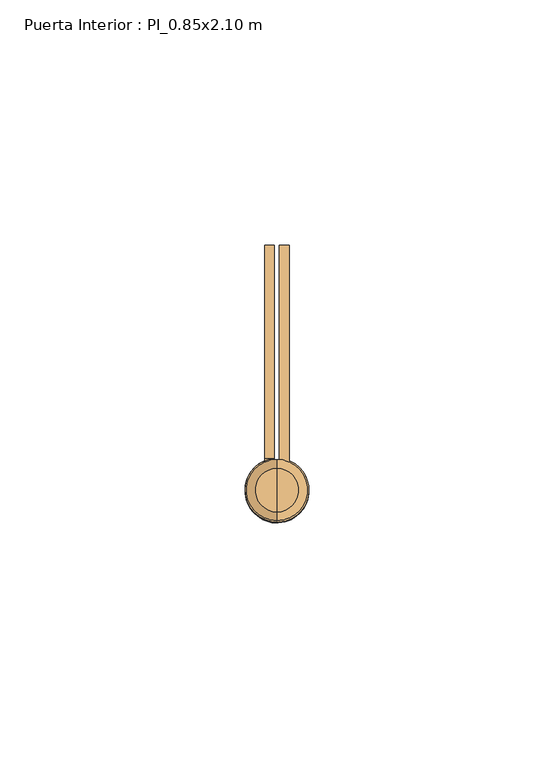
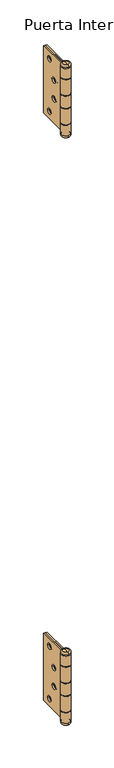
"""IFC4 building model written with IfcOpenShell, lengths in millimetres: door geometry, Puerta Interior : PI_0.85x2.10 m."""

from ifc_helpers import new_model, si_unit, point, frame, origin, place, context, project, spatial, polyline, circle_curve, ellipse_curve, trimmed, source, transform, mapped, element, save
from ifc_brep_helpers import plane_surface, cylinder_surface, revolved_surface, advanced_brep


def puerta_interior_pi_0_85x2_10_m_9cadf999(model_context):
    return source(origin(), model_context, "Body", "AdvancedBrep", [
        advanced_brep(
        [(-389.0, -7.5, 1950.0), (-389.0, -51.5, 1950.0), (-389.0, -51.5, 1934.5), (-389.0, -51.0, 1934.5), (-389.0, -51.0, 1909.0), (-389.0, -51.5, 1909.0), (-389.0, -51.5, 1891.0), (-389.0, -51.0, 1891.0), (-389.0, -51.0, 1865.5), (-389.0, -51.5, 1865.5), (-389.0, -51.5, 1850.0), (-389.0, -7.5, 1850.0), (-389.0, -17.5, 1861.0), (-389.0, -25.5, 1861.0), (-389.0, -28.5, 1886.0), (-389.0, -36.5, 1886.0), (-389.0, -17.5, 1939.0), (-389.0, -25.5, 1939.0), (-389.0, -28.5, 1914.0), (-389.0, -36.5, 1914.0), (-391.0, -7.5, 1850.0), (-391.0, -53.027864, 1850.0), (-391.0, -53.027864, 1865.5), (-391.0, -51.0, 1865.5), (-391.0, -51.0, 1891.0), (-391.0, -53.027864, 1891.0), (-391.0, -53.027864, 1909.0), (-391.0, -51.0, 1909.0), (-391.0, -51.0, 1934.5), (-391.0, -53.027864, 1934.5), (-391.0, -53.027864, 1950.0), (-391.0, -7.5, 1950.0), (-391.0, -25.5, 1861.0), (-391.0, -17.5, 1861.0), (-391.0, -36.5, 1886.0), (-391.0, -28.5, 1886.0), (-391.0, -25.5, 1939.0), (-391.0, -17.5, 1939.0), (-391.0, -36.5, 1914.0), (-391.0, -28.5, 1914.0), (-392.0, -51.0192593, 1850.0), (-392.0, -53.027864, 1850.0), (-392.0, -53.027864, 1950.0), (-392.0, -51.0192593, 1950.0), (-392.0, -51.0192593, 1934.5), (-392.0, -53.027864, 1934.5), (-392.0, -53.027864, 1909.0), (-392.0, -51.0192593, 1909.0), (-392.0, -51.0192593, 1891.0), (-392.0, -53.027864, 1891.0), (-392.0, -53.027864, 1865.5), (-392.0, -51.0192593, 1865.5)],
        [
            (0, 1),
            (1, 2),
            (2, 3),
            (3, 4),
            (4, 5),
            (5, 6),
            (6, 7),
            (7, 8),
            (8, 9),
            (9, 10),
            (10, 11),
            (11, 0),
            (12, 13, circle_curve(frame((-389.0, -21.5, 1861.0), z_axis=(-1.0, 0.0, 0.0), x_axis=(0.0, 1.0, 0.0)), 4.0)),
            (13, 12, circle_curve(frame((-389.0, -21.5, 1861.0), z_axis=(-1.0, 0.0, 0.0), x_axis=(0.0, 1.0, 0.0)), 4.0)),
            (14, 15, circle_curve(frame((-389.0, -32.5, 1886.0), z_axis=(-1.0, 0.0, 0.0), x_axis=(0.0, 1.0, 0.0)), 4.0)),
            (15, 14, circle_curve(frame((-389.0, -32.5, 1886.0), z_axis=(-1.0, 0.0, 0.0), x_axis=(0.0, 1.0, 0.0)), 4.0)),
            (16, 17, circle_curve(frame((-389.0, -21.5, 1939.0), z_axis=(-1.0, 0.0, 0.0), x_axis=(0.0, 1.0, 0.0)), 4.0)),
            (17, 16, circle_curve(frame((-389.0, -21.5, 1939.0), z_axis=(-1.0, 0.0, 0.0), x_axis=(0.0, 1.0, 0.0)), 4.0)),
            (18, 19, circle_curve(frame((-389.0, -32.5, 1914.0), z_axis=(-1.0, 0.0, 0.0), x_axis=(0.0, 1.0, 0.0)), 4.0)),
            (19, 18, circle_curve(frame((-389.0, -32.5, 1914.0), z_axis=(-1.0, 0.0, 0.0), x_axis=(0.0, 1.0, 0.0)), 4.0)),
            (20, 21),
            (21, 22),
            (22, 23),
            (23, 24),
            (24, 25),
            (25, 26),
            (26, 27),
            (27, 28),
            (28, 29),
            (29, 30),
            (30, 31),
            (31, 20),
            (32, 33, circle_curve(frame((-391.0, -21.5, 1861.0), z_axis=(1.0, 0.0, 0.0), x_axis=(0.0, 1.0, 0.0)), 4.0)),
            (33, 32, circle_curve(frame((-391.0, -21.5, 1861.0), z_axis=(1.0, 0.0, 0.0), x_axis=(0.0, 1.0, 0.0)), 4.0)),
            (34, 35, circle_curve(frame((-391.0, -32.5, 1886.0), z_axis=(1.0, 0.0, 0.0), x_axis=(0.0, 1.0, 0.0)), 4.0)),
            (35, 34, circle_curve(frame((-391.0, -32.5, 1886.0), z_axis=(1.0, 0.0, 0.0), x_axis=(0.0, 1.0, 0.0)), 4.0)),
            (36, 37, circle_curve(frame((-391.0, -21.5, 1939.0), z_axis=(1.0, 0.0, 0.0), x_axis=(0.0, 1.0, 0.0)), 4.0)),
            (37, 36, circle_curve(frame((-391.0, -21.5, 1939.0), z_axis=(1.0, 0.0, 0.0), x_axis=(0.0, 1.0, 0.0)), 4.0)),
            (38, 39, circle_curve(frame((-391.0, -32.5, 1914.0), z_axis=(1.0, 0.0, 0.0), x_axis=(0.0, 1.0, 0.0)), 4.0)),
            (39, 38, circle_curve(frame((-391.0, -32.5, 1914.0), z_axis=(1.0, 0.0, 0.0), x_axis=(0.0, 1.0, 0.0)), 4.0)),
            (10, 40, circle_curve(frame((-391.5, -57.5, 1850.0), z_axis=(0.0, 0.0, -1.0), x_axis=(0.0, -1.0, 0.0)), 6.5)),
            (40, 41),
            (41, 21, circle_curve(frame((-391.5, -57.5, 1850.0), z_axis=(0.0, 0.0, 1.0), x_axis=(0.0, -1.0, 0.0)), 4.5)),
            (20, 11),
            (31, 0),
            (30, 42, circle_curve(frame((-391.5, -57.5, 1950.0), z_axis=(0.0, 0.0, -1.0), x_axis=(0.0, -1.0, 0.0)), 4.5)),
            (42, 43),
            (43, 1, circle_curve(frame((-391.5, -57.5, 1950.0), z_axis=(0.0, 0.0, 1.0), x_axis=(0.0, -1.0, 0.0)), 6.5)),
            (27, 4),
            (3, 28),
            (23, 8),
            (7, 24),
            (2, 44, circle_curve(frame((-391.5, -57.5, 1934.5), z_axis=(0.0, 0.0, -1.0), x_axis=(0.0, -1.0, 0.0)), 6.5)),
            (44, 45),
            (45, 29, circle_curve(frame((-391.5, -57.5, 1934.5), z_axis=(0.0, 0.0, 1.0), x_axis=(0.0, -1.0, 0.0)), 4.5)),
            (43, 44),
            (42, 45),
            (26, 46, circle_curve(frame((-391.5, -57.5, 1909.0), z_axis=(0.0, 0.0, -1.0), x_axis=(0.0, -1.0, 0.0)), 4.5)),
            (46, 47),
            (47, 5, circle_curve(frame((-391.5, -57.5, 1909.0), z_axis=(0.0, 0.0, 1.0), x_axis=(0.0, -1.0, 0.0)), 6.5)),
            (6, 48, circle_curve(frame((-391.5, -57.5, 1891.0), z_axis=(0.0, 0.0, -1.0), x_axis=(0.0, -1.0, 0.0)), 6.5)),
            (48, 49),
            (49, 25, circle_curve(frame((-391.5, -57.5, 1891.0), z_axis=(0.0, 0.0, 1.0), x_axis=(0.0, -1.0, 0.0)), 4.5)),
            (47, 48),
            (46, 49),
            (22, 50, circle_curve(frame((-391.5, -57.5, 1865.5), z_axis=(0.0, 0.0, -1.0), x_axis=(0.0, -1.0, 0.0)), 4.5)),
            (50, 51),
            (51, 9, circle_curve(frame((-391.5, -57.5, 1865.5), z_axis=(0.0, 0.0, 1.0), x_axis=(0.0, -1.0, 0.0)), 6.5)),
            (51, 40),
            (50, 41),
            (33, 12),
            (13, 32),
            (35, 14),
            (15, 34),
            (37, 16),
            (17, 36),
            (39, 18),
            (19, 38),
        ],
        [
            plane_surface(frame((-389.0, -51.0, 1850.0), z_axis=(1.0, 0.0, 0.0), x_axis=(0.0, 0.0, 1.0))),
            plane_surface(frame((-391.0, -51.0, 1850.0), z_axis=(-1.0, 0.0, 0.0), x_axis=(0.0, 0.0, -1.0))),
            plane_surface(frame((-389.0, -7.5, 1850.0), z_axis=(0.0, 0.0, -1.0), x_axis=(-1.0, 0.0, 0.0))),
            plane_surface(frame((-389.0, -7.5, 1950.0), z_axis=(0.0, 1.0, 0.0), x_axis=(-1.0, 0.0, 0.0))),
            plane_surface(frame((-389.0, -51.0, 1950.0), z_axis=(0.0, 0.0, 1.0), x_axis=(-1.0, 0.0, 0.0))),
            plane_surface(frame((-389.0, -51.0, 1850.0), z_axis=(0.0, -1.0, 0.0), x_axis=(-1.0, 0.0, 0.0))),
            plane_surface(frame((-391.0, -51.0, 1934.5), z_axis=(0.0, 0.0, -1.0), x_axis=(0.0, -1.0, 0.0))),
            cylinder_surface(frame((-391.5, -57.5, 1934.5), z_axis=(0.0, 0.0, 1.0), x_axis=(0.0, -1.0, 0.0)), 6.5),
            plane_surface(frame((-392.0, -51.0192593, 1950.0), z_axis=(1.0, 0.0, 0.0), x_axis=(0.0, 0.0, -1.0))),
            revolved_surface(polyline([(-391.5, -62.0, 1934.5), (-391.5, -62.0, 1950.0)]), (-391.5, -57.5, 1934.5), (0.0, 0.0, -1.0)),
            plane_surface(frame((-391.0, -51.0, 1909.0), z_axis=(0.0, 0.0, 1.0), x_axis=(0.0, 1.0, 0.0))),
            plane_surface(frame((-391.0, -51.0, 1891.0), z_axis=(0.0, 0.0, -1.0), x_axis=(0.0, -1.0, 0.0))),
            cylinder_surface(frame((-391.5, -57.5, 1891.0), z_axis=(0.0, 0.0, 1.0), x_axis=(0.0, -1.0, 0.0)), 6.5),
            plane_surface(frame((-392.0, -51.0192593, 1909.0), z_axis=(1.0, 0.0, 0.0), x_axis=(0.0, 0.0, -1.0))),
            revolved_surface(polyline([(-391.5, -62.0, 1891.0), (-391.5, -62.0, 1909.0)]), (-391.5, -57.5, 1891.0), (0.0, 0.0, -1.0)),
            plane_surface(frame((-391.0, -51.0, 1865.5), z_axis=(0.0, 0.0, 1.0), x_axis=(0.0, 1.0, 0.0))),
            cylinder_surface(frame((-391.5, -57.5, 1850.0), z_axis=(0.0, 0.0, 1.0), x_axis=(0.0, -1.0, 0.0)), 6.5),
            plane_surface(frame((-392.0, -51.0192593, 1865.5), z_axis=(1.0, 0.0, 0.0), x_axis=(0.0, 0.0, -1.0))),
            revolved_surface(polyline([(-391.5, -62.0, 1850.0), (-391.5, -62.0, 1865.5)]), (-391.5, -57.5, 1850.0), (0.0, 0.0, -1.0)),
            revolved_surface(polyline([(-389.0, -17.5, 1861.0), (-391.0, -17.5, 1861.0)]), (-394.0, -21.5, 1861.0), (1.0, 0.0, 0.0)),
            revolved_surface(polyline([(-389.0, -28.5, 1886.0), (-391.0, -28.5, 1886.0)]), (-392.0, -32.5, 1886.0), (1.0, 0.0, 0.0)),
            revolved_surface(polyline([(-389.0, -17.5, 1939.0), (-391.0, -17.5, 1939.0)]), (-392.0, -21.5, 1939.0), (1.0, 0.0, 0.0)),
            revolved_surface(polyline([(-389.0, -28.5, 1914.0), (-391.0, -28.5, 1914.0)]), (-392.0, -32.5, 1914.0), (1.0, 0.0, 0.0)),
        ],
        [
            (0, [[1, 2, 3, 4, 5, 6, 7, 8, 9, 10, 11, 12], [13, 14], [15, 16], [17, 18], [19, 20]]),
            (1, [[21, 22, 23, 24, 25, 26, 27, 28, 29, 30, 31, 32], [33, 34], [35, 36], [37, 38], [39, 40]]),
            (2, [[-11, 41, 42, 43, -21, 44]]),
            (3, [[-44, -32, 45, -12]]),
            (4, [[-31, 46, 47, 48, -1, -45]]),
            (5, [[-28, 49, -4, 50]]),
            (5, [[-24, 51, -8, 52]]),
            (6, [[-29, -50, -3, 53, 54, 55]]),
            (7, [[56, -53, -2, -48]]),
            (8, [[57, -54, -56, -47]]),
            (9, [[-30, -55, -57, -46]]),
            (10, [[-5, -49, -27, 58, 59, 60]]),
            (11, [[-25, -52, -7, 61, 62, 63]]),
            (12, [[64, -61, -6, -60]]),
            (13, [[65, -62, -64, -59]]),
            (14, [[-26, -63, -65, -58]]),
            (15, [[-9, -51, -23, 66, 67, 68]]),
            (16, [[69, -41, -10, -68]]),
            (17, [[70, -42, -69, -67]]),
            (18, [[-22, -43, -70, -66]]),
            (19, [[-34, 71, -14, 72]]),
            (19, [[-13, -71, -33, -72]]),
            (20, [[-36, 73, -16, 74]]),
            (20, [[-15, -73, -35, -74]]),
            (21, [[-38, 75, -18, 76]]),
            (21, [[-17, -75, -37, -76]]),
            (22, [[-40, 77, -20, 78]]),
            (22, [[-19, -77, -39, -78]]),
        ],
    ),
        advanced_brep(
        [(-391.5, -53.0, 1954.0), (-391.5, -53.0, 1950.5), (-391.5, -61.9442719, 1950.5), (-391.5, -61.9442719, 1954.0), (-391.5, -57.472136, 1954.0), (-391.5, -53.0, 1846.0), (-391.5, -57.472136, 1846.0), (-391.5, -61.9442719, 1846.0), (-391.5, -53.0, 1849.5), (-391.5, -61.9442719, 1849.5)],
        [
            (0, 1, circle_curve(frame((-391.5, -53.0, 1952.25), z_axis=(-1.0, 0.0, 0.0), x_axis=(0.0, -1.0, 0.0)), 1.75)),
            (1, 2, circle_curve(frame((-391.5, -57.472136, 1950.5), z_axis=(0.0, 0.0, 1.0), x_axis=(0.0, -1.0, 0.0)), 4.472136)),
            (2, 3, circle_curve(frame((-391.5, -61.9442719, 1952.25), z_axis=(-1.0, 0.0, 0.0), x_axis=(0.0, 1.0, 0.0)), 1.75)),
            (3, 0, circle_curve(frame((-391.5, -57.472136, 1954.0), z_axis=(0.0, 0.0, -1.0), x_axis=(0.0, -1.0, 0.0)), 4.472136)),
            (2, 1, circle_curve(frame((-391.5, -57.472136, 1950.5), z_axis=(0.0, 0.0, 1.0), x_axis=(0.0, -1.0, 0.0)), 4.472136)),
            (0, 3, circle_curve(frame((-391.5, -57.472136, 1954.0), z_axis=(0.0, 0.0, -1.0), x_axis=(0.0, -1.0, 0.0)), 4.472136)),
            (4, 0),
            (3, 4),
            (5, 6),
            (6, 7),
            (7, 5, circle_curve(frame((-391.5, -57.472136, 1846.0), z_axis=(0.0, 0.0, -1.0), x_axis=(0.0, -1.0, 0.0)), 4.472136)),
            (5, 7, circle_curve(frame((-391.5, -57.472136, 1846.0), z_axis=(0.0, 0.0, -1.0), x_axis=(0.0, -1.0, 0.0)), 4.472136)),
            (8, 5, circle_curve(frame((-391.5, -53.0, 1847.75), z_axis=(-1.0, 0.0, 0.0), x_axis=(0.0, -1.0, 0.0)), 1.75)),
            (7, 9, circle_curve(frame((-391.5, -61.9442719, 1847.75), z_axis=(-1.0, 0.0, 0.0), x_axis=(0.0, 1.0, 0.0)), 1.75)),
            (9, 8, circle_curve(frame((-391.5, -57.472136, 1849.5), z_axis=(0.0, 0.0, -1.0), x_axis=(0.0, -1.0, 0.0)), 4.472136)),
            (8, 9, circle_curve(frame((-391.5, -57.472136, 1849.5), z_axis=(0.0, 0.0, -1.0), x_axis=(0.0, -1.0, 0.0)), 4.472136)),
            (1, 8),
            (9, 2),
        ],
        [
            revolved_surface(trimmed(ellipse_curve(frame((-391.5, -61.9442719, 1952.25), z_axis=(-1.0, 0.0, 0.0), x_axis=(0.0, 1.0, 0.0)), 1.75, 1.75), [point((-391.5, -61.9442719, 1950.5))], [point((-391.5, -61.9442719, 1954.0))], True, "CARTESIAN"), (-391.5, -57.472136, 1954.0), (0.0, 0.0, 1.0)),
            plane_surface(frame((-391.5, -57.472136, 1954.0), z_axis=(0.0, 0.0, 1.0), x_axis=(0.0, -1.0, 0.0))),
            plane_surface(frame((-391.5, -57.472136, 1846.0), z_axis=(0.0, 0.0, -1.0), x_axis=(0.0, -1.0, 0.0))),
            revolved_surface(trimmed(ellipse_curve(frame((-391.5, -61.9442719, 1847.75), z_axis=(-1.0, 0.0, 0.0), x_axis=(0.0, 1.0, 0.0)), 1.75, 1.75), [point((-391.5, -61.9442719, 1846.0))], [point((-391.5, -61.9442719, 1849.5))], True, "CARTESIAN"), (-391.5, -57.472136, 1954.0), (0.0, 0.0, 1.0)),
            cylinder_surface(frame((-391.5, -57.472136, 1954.0), z_axis=(0.0, 0.0, 1.0), x_axis=(0.0, -1.0, 0.0)), 4.472136),
        ],
        [
            (0, [[1, 2, 3, 4]]),
            (0, [[-3, 5, -1, 6]]),
            (1, [[7, -4, 8]]),
            (1, [[-8, -6, -7]]),
            (2, [[9, 10, 11]]),
            (2, [[-10, -9, 12]]),
            (3, [[13, -11, 14, 15]]),
            (3, [[-14, -12, -13, 16]]),
            (4, [[17, -15, 18, -2]]),
            (4, [[-18, -16, -17, -5]]),
        ],
    ),
        advanced_brep(
        [(-392.0, -51.0, 1950.0), (-392.0, -51.0, 1933.5), (-392.0, -53.027864, 1933.5), (-392.0, -53.027864, 1910.0), (-392.0, -51.0, 1910.0), (-392.0, -51.0, 1890.0), (-392.0, -53.027864, 1890.0), (-392.0, -53.027864, 1866.5), (-392.0, -51.0, 1866.5), (-392.0, -51.0, 1850.0), (-392.0, -7.5, 1850.0), (-392.0, -7.5, 1950.0), (-392.0, -17.5, 1861.0), (-392.0, -25.5, 1861.0), (-392.0, -28.5, 1886.0), (-392.0, -36.5, 1886.0), (-392.0, -17.5, 1939.0), (-392.0, -25.5, 1939.0), (-392.0, -28.5, 1914.0), (-392.0, -36.5, 1914.0), (-394.0, -51.0, 1850.0), (-394.0, -51.0, 1866.5), (-394.0, -51.5, 1866.5), (-394.0, -51.5, 1890.0), (-394.0, -51.0, 1890.0), (-394.0, -51.0, 1910.0), (-394.0, -51.5, 1910.0), (-394.0, -51.5, 1933.5), (-394.0, -51.0, 1933.5), (-394.0, -51.0, 1950.0), (-394.0, -7.5, 1950.0), (-394.0, -7.5, 1850.0), (-394.0, -25.5, 1861.0), (-394.0, -17.5, 1861.0), (-394.0, -36.5, 1886.0), (-394.0, -28.5, 1886.0), (-394.0, -25.5, 1939.0), (-394.0, -17.5, 1939.0), (-394.0, -36.5, 1914.0), (-394.0, -28.5, 1914.0), (-391.0, -51.0192593, 1933.5), (-391.0, -53.027864, 1933.5), (-391.0, -53.027864, 1910.0), (-391.0, -51.0192593, 1910.0), (-391.0, -51.0192593, 1890.0), (-391.0, -53.027864, 1890.0), (-391.0, -53.027864, 1866.5), (-391.0, -51.0192593, 1866.5)],
        [
            (0, 1),
            (1, 2),
            (2, 3),
            (3, 4),
            (4, 5),
            (5, 6),
            (6, 7),
            (7, 8),
            (8, 9),
            (9, 10),
            (10, 11),
            (11, 0),
            (12, 13, circle_curve(frame((-392.0, -21.5, 1861.0), z_axis=(-1.0, 0.0, 0.0), x_axis=(0.0, 1.0, 0.0)), 4.0)),
            (13, 12, circle_curve(frame((-392.0, -21.5, 1861.0), z_axis=(-1.0, 0.0, 0.0), x_axis=(0.0, 1.0, 0.0)), 4.0)),
            (14, 15, circle_curve(frame((-392.0, -32.5, 1886.0), z_axis=(-1.0, 0.0, 0.0), x_axis=(0.0, 1.0, 0.0)), 4.0)),
            (15, 14, circle_curve(frame((-392.0, -32.5, 1886.0), z_axis=(-1.0, 0.0, 0.0), x_axis=(0.0, 1.0, 0.0)), 4.0)),
            (16, 17, circle_curve(frame((-392.0, -21.5, 1939.0), z_axis=(-1.0, 0.0, 0.0), x_axis=(0.0, 1.0, 0.0)), 4.0)),
            (17, 16, circle_curve(frame((-392.0, -21.5, 1939.0), z_axis=(-1.0, 0.0, 0.0), x_axis=(0.0, 1.0, 0.0)), 4.0)),
            (18, 19, circle_curve(frame((-392.0, -32.5, 1914.0), z_axis=(-1.0, 0.0, 0.0), x_axis=(0.0, 1.0, 0.0)), 4.0)),
            (19, 18, circle_curve(frame((-392.0, -32.5, 1914.0), z_axis=(-1.0, 0.0, 0.0), x_axis=(0.0, 1.0, 0.0)), 4.0)),
            (20, 21),
            (21, 22),
            (22, 23),
            (23, 24),
            (24, 25),
            (25, 26),
            (26, 27),
            (27, 28),
            (28, 29),
            (29, 30),
            (30, 31),
            (31, 20),
            (32, 33, circle_curve(frame((-394.0, -21.5, 1861.0), z_axis=(1.0, 0.0, 0.0), x_axis=(0.0, 1.0, 0.0)), 4.0)),
            (33, 32, circle_curve(frame((-394.0, -21.5, 1861.0), z_axis=(1.0, 0.0, 0.0), x_axis=(0.0, 1.0, 0.0)), 4.0)),
            (34, 35, circle_curve(frame((-394.0, -32.5, 1886.0), z_axis=(1.0, 0.0, 0.0), x_axis=(0.0, 1.0, 0.0)), 4.0)),
            (35, 34, circle_curve(frame((-394.0, -32.5, 1886.0), z_axis=(1.0, 0.0, 0.0), x_axis=(0.0, 1.0, 0.0)), 4.0)),
            (36, 37, circle_curve(frame((-394.0, -21.5, 1939.0), z_axis=(1.0, 0.0, 0.0), x_axis=(0.0, 1.0, 0.0)), 4.0)),
            (37, 36, circle_curve(frame((-394.0, -21.5, 1939.0), z_axis=(1.0, 0.0, 0.0), x_axis=(0.0, 1.0, 0.0)), 4.0)),
            (38, 39, circle_curve(frame((-394.0, -32.5, 1914.0), z_axis=(1.0, 0.0, 0.0), x_axis=(0.0, 1.0, 0.0)), 4.0)),
            (39, 38, circle_curve(frame((-394.0, -32.5, 1914.0), z_axis=(1.0, 0.0, 0.0), x_axis=(0.0, 1.0, 0.0)), 4.0)),
            (9, 20),
            (31, 10),
            (30, 11),
            (29, 0),
            (8, 21),
            (28, 1),
            (24, 5),
            (4, 25),
            (27, 40, circle_curve(frame((-391.5, -57.5, 1933.5), z_axis=(0.0, 0.0, 1.0), x_axis=(0.0, -1.0, 0.0)), 6.5)),
            (40, 41),
            (41, 2, circle_curve(frame((-391.5, -57.5, 1933.5), z_axis=(0.0, 0.0, -1.0), x_axis=(0.0, -1.0, 0.0)), 4.5)),
            (3, 42, circle_curve(frame((-391.5, -57.5, 1910.0), z_axis=(0.0, 0.0, 1.0), x_axis=(0.0, -1.0, 0.0)), 4.5)),
            (42, 43),
            (43, 26, circle_curve(frame((-391.5, -57.5, 1910.0), z_axis=(0.0, 0.0, -1.0), x_axis=(0.0, -1.0, 0.0)), 6.5)),
            (43, 40),
            (42, 41),
            (23, 44, circle_curve(frame((-391.5, -57.5, 1890.0), z_axis=(0.0, 0.0, 1.0), x_axis=(0.0, -1.0, 0.0)), 6.5)),
            (44, 45),
            (45, 6, circle_curve(frame((-391.5, -57.5, 1890.0), z_axis=(0.0, 0.0, -1.0), x_axis=(0.0, -1.0, 0.0)), 4.5)),
            (7, 46, circle_curve(frame((-391.5, -57.5, 1866.5), z_axis=(0.0, 0.0, 1.0), x_axis=(0.0, -1.0, 0.0)), 4.5)),
            (46, 47),
            (47, 22, circle_curve(frame((-391.5, -57.5, 1866.5), z_axis=(0.0, 0.0, -1.0), x_axis=(0.0, -1.0, 0.0)), 6.5)),
            (47, 44),
            (46, 45),
            (33, 12),
            (13, 32),
            (35, 14),
            (15, 34),
            (37, 16),
            (17, 36),
            (39, 18),
            (19, 38),
        ],
        [
            plane_surface(frame((-392.0, -51.0, 1850.0), z_axis=(1.0, 0.0, 0.0), x_axis=(0.0, 0.0, 1.0))),
            plane_surface(frame((-394.0, -51.0, 1850.0), z_axis=(-1.0, 0.0, 0.0), x_axis=(0.0, 0.0, -1.0))),
            plane_surface(frame((-392.0, -7.5, 1850.0), z_axis=(0.0, 0.0, -1.0), x_axis=(-1.0, 0.0, 0.0))),
            plane_surface(frame((-392.0, -7.5, 1950.0), z_axis=(0.0, 1.0, 0.0), x_axis=(-1.0, 0.0, 0.0))),
            plane_surface(frame((-392.0, -51.0, 1950.0), z_axis=(0.0, 0.0, 1.0), x_axis=(-1.0, 0.0, 0.0))),
            plane_surface(frame((-392.0, -51.0, 1850.0), z_axis=(0.0, -1.0, 0.0), x_axis=(-1.0, 0.0, 0.0))),
            plane_surface(frame((-391.5, -62.0, 1933.5), z_axis=(0.0, 0.0, 1.0), x_axis=(1.0, 0.0, 0.0))),
            plane_surface(frame((-391.5, -62.0, 1910.0), z_axis=(0.0, 0.0, -1.0), x_axis=(-1.0, 0.0, 0.0))),
            cylinder_surface(frame((-391.5, -57.5, 1910.0), z_axis=(0.0, 0.0, 1.0), x_axis=(0.0, -1.0, 0.0)), 6.5),
            plane_surface(frame((-391.0, -53.027864, 1933.5), z_axis=(-1.0, 0.0, 0.0), x_axis=(0.0, 0.0, -1.0))),
            revolved_surface(polyline([(-391.5, -62.0, 1910.0), (-391.5, -62.0, 1933.5)]), (-391.5, -57.5, 1910.0), (0.0, 0.0, -1.0)),
            plane_surface(frame((-391.5, -62.0, 1890.0), z_axis=(0.0, 0.0, 1.0), x_axis=(1.0, 0.0, 0.0))),
            plane_surface(frame((-391.5, -62.0, 1866.5), z_axis=(0.0, 0.0, -1.0), x_axis=(-1.0, 0.0, 0.0))),
            cylinder_surface(frame((-391.5, -57.5, 1866.5), z_axis=(0.0, 0.0, 1.0), x_axis=(0.0, -1.0, 0.0)), 6.5),
            plane_surface(frame((-391.0, -53.027864, 1890.0), z_axis=(-1.0, 0.0, 0.0), x_axis=(0.0, 0.0, -1.0))),
            revolved_surface(polyline([(-391.5, -62.0, 1866.5), (-391.5, -62.0, 1890.0)]), (-391.5, -57.5, 1866.5), (0.0, 0.0, -1.0)),
            revolved_surface(polyline([(-392.0, -17.5, 1861.0), (-394.0, -17.5, 1861.0)]), (-394.0, -21.5, 1861.0), (1.0, 0.0, 0.0)),
            revolved_surface(polyline([(-392.0, -28.5, 1886.0), (-394.0, -28.5, 1886.0)]), (-392.0, -32.5, 1886.0), (1.0, 0.0, 0.0)),
            revolved_surface(polyline([(-392.0, -17.5, 1939.0), (-394.0, -17.5, 1939.0)]), (-392.0, -21.5, 1939.0), (1.0, 0.0, 0.0)),
            revolved_surface(polyline([(-392.0, -28.5, 1914.0), (-394.0, -28.5, 1914.0)]), (-392.0, -32.5, 1914.0), (1.0, 0.0, 0.0)),
        ],
        [
            (0, [[1, 2, 3, 4, 5, 6, 7, 8, 9, 10, 11, 12], [13, 14], [15, 16], [17, 18], [19, 20]]),
            (1, [[21, 22, 23, 24, 25, 26, 27, 28, 29, 30, 31, 32], [33, 34], [35, 36], [37, 38], [39, 40]]),
            (2, [[41, -32, 42, -10]]),
            (3, [[-42, -31, 43, -11]]),
            (4, [[-43, -30, 44, -12]]),
            (5, [[-9, 45, -21, -41]]),
            (5, [[-29, 46, -1, -44]]),
            (5, [[-25, 47, -5, 48]]),
            (6, [[-2, -46, -28, 49, 50, 51]]),
            (7, [[-26, -48, -4, 52, 53, 54]]),
            (8, [[-27, -54, 55, -49]]),
            (9, [[-55, -53, 56, -50]]),
            (10, [[-56, -52, -3, -51]]),
            (11, [[-6, -47, -24, 57, 58, 59]]),
            (12, [[-22, -45, -8, 60, 61, 62]]),
            (13, [[-23, -62, 63, -57]]),
            (14, [[-63, -61, 64, -58]]),
            (15, [[-64, -60, -7, -59]]),
            (16, [[-34, 65, -14, 66]]),
            (16, [[-13, -65, -33, -66]]),
            (17, [[-36, 67, -16, 68]]),
            (17, [[-15, -67, -35, -68]]),
            (18, [[-38, 69, -18, 70]]),
            (18, [[-17, -69, -37, -70]]),
            (19, [[-40, 71, -20, 72]]),
            (19, [[-19, -71, -39, -72]]),
        ],
    ),
        advanced_brep(
        [(-389.0, -7.5, 1075.0174632), (-389.0, -51.5, 1075.0174632), (-389.0, -51.5, 1059.5174632), (-389.0, -51.0, 1059.5174632), (-389.0, -51.0, 1034.0174632), (-389.0, -51.5, 1034.0174632), (-389.0, -51.5, 1016.0174632), (-389.0, -51.0, 1016.0174632), (-389.0, -51.0, 990.5174632), (-389.0, -51.5, 990.5174632), (-389.0, -51.5, 975.0174632), (-389.0, -7.5, 975.0174632), (-389.0, -17.5, 986.0174632), (-389.0, -25.5, 986.0174632), (-389.0, -28.5, 1011.0174632), (-389.0, -36.5, 1011.0174632), (-389.0, -17.5, 1064.0174632), (-389.0, -25.5, 1064.0174632), (-389.0, -28.5, 1039.0174632), (-389.0, -36.5, 1039.0174632), (-391.0, -7.5, 975.0174632), (-391.0, -53.027864, 975.0174632), (-391.0, -53.027864, 990.5174632), (-391.0, -51.0, 990.5174632), (-391.0, -51.0, 1016.0174632), (-391.0, -53.027864, 1016.0174632), (-391.0, -53.027864, 1034.0174632), (-391.0, -51.0, 1034.0174632), (-391.0, -51.0, 1059.5174632), (-391.0, -53.027864, 1059.5174632), (-391.0, -53.027864, 1075.0174632), (-391.0, -7.5, 1075.0174632), (-391.0, -25.5, 986.0174632), (-391.0, -17.5, 986.0174632), (-391.0, -36.5, 1011.0174632), (-391.0, -28.5, 1011.0174632), (-391.0, -25.5, 1064.0174632), (-391.0, -17.5, 1064.0174632), (-391.0, -36.5, 1039.0174632), (-391.0, -28.5, 1039.0174632), (-392.0, -51.0192593, 975.0174632), (-392.0, -53.027864, 975.0174632), (-392.0, -53.027864, 1075.0174632), (-392.0, -51.0192593, 1075.0174632), (-392.0, -51.0192593, 1059.5174632), (-392.0, -53.027864, 1059.5174632), (-392.0, -53.027864, 1034.0174632), (-392.0, -51.0192593, 1034.0174632), (-392.0, -51.0192593, 1016.0174632), (-392.0, -53.027864, 1016.0174632), (-392.0, -53.027864, 990.5174632), (-392.0, -51.0192593, 990.5174632)],
        [
            (0, 1),
            (1, 2),
            (2, 3),
            (3, 4),
            (4, 5),
            (5, 6),
            (6, 7),
            (7, 8),
            (8, 9),
            (9, 10),
            (10, 11),
            (11, 0),
            (12, 13, circle_curve(frame((-389.0, -21.5, 986.0174632), z_axis=(-1.0, 0.0, 0.0), x_axis=(0.0, 1.0, 0.0)), 4.0)),
            (13, 12, circle_curve(frame((-389.0, -21.5, 986.0174632), z_axis=(-1.0, 0.0, 0.0), x_axis=(0.0, 1.0, 0.0)), 4.0)),
            (14, 15, circle_curve(frame((-389.0, -32.5, 1011.0174632), z_axis=(-1.0, 0.0, 0.0), x_axis=(0.0, 1.0, 0.0)), 4.0)),
            (15, 14, circle_curve(frame((-389.0, -32.5, 1011.0174632), z_axis=(-1.0, 0.0, 0.0), x_axis=(0.0, 1.0, 0.0)), 4.0)),
            (16, 17, circle_curve(frame((-389.0, -21.5, 1064.0174632), z_axis=(-1.0, 0.0, 0.0), x_axis=(0.0, 1.0, 0.0)), 4.0)),
            (17, 16, circle_curve(frame((-389.0, -21.5, 1064.0174632), z_axis=(-1.0, 0.0, 0.0), x_axis=(0.0, 1.0, 0.0)), 4.0)),
            (18, 19, circle_curve(frame((-389.0, -32.5, 1039.0174632), z_axis=(-1.0, 0.0, 0.0), x_axis=(0.0, 1.0, 0.0)), 4.0)),
            (19, 18, circle_curve(frame((-389.0, -32.5, 1039.0174632), z_axis=(-1.0, 0.0, 0.0), x_axis=(0.0, 1.0, 0.0)), 4.0)),
            (20, 21),
            (21, 22),
            (22, 23),
            (23, 24),
            (24, 25),
            (25, 26),
            (26, 27),
            (27, 28),
            (28, 29),
            (29, 30),
            (30, 31),
            (31, 20),
            (32, 33, circle_curve(frame((-391.0, -21.5, 986.0174632), z_axis=(1.0, 0.0, 0.0), x_axis=(0.0, 1.0, 0.0)), 4.0)),
            (33, 32, circle_curve(frame((-391.0, -21.5, 986.0174632), z_axis=(1.0, 0.0, 0.0), x_axis=(0.0, 1.0, 0.0)), 4.0)),
            (34, 35, circle_curve(frame((-391.0, -32.5, 1011.0174632), z_axis=(1.0, 0.0, 0.0), x_axis=(0.0, 1.0, 0.0)), 4.0)),
            (35, 34, circle_curve(frame((-391.0, -32.5, 1011.0174632), z_axis=(1.0, 0.0, 0.0), x_axis=(0.0, 1.0, 0.0)), 4.0)),
            (36, 37, circle_curve(frame((-391.0, -21.5, 1064.0174632), z_axis=(1.0, 0.0, 0.0), x_axis=(0.0, 1.0, 0.0)), 4.0)),
            (37, 36, circle_curve(frame((-391.0, -21.5, 1064.0174632), z_axis=(1.0, 0.0, 0.0), x_axis=(0.0, 1.0, 0.0)), 4.0)),
            (38, 39, circle_curve(frame((-391.0, -32.5, 1039.0174632), z_axis=(1.0, 0.0, 0.0), x_axis=(0.0, 1.0, 0.0)), 4.0)),
            (39, 38, circle_curve(frame((-391.0, -32.5, 1039.0174632), z_axis=(1.0, 0.0, 0.0), x_axis=(0.0, 1.0, 0.0)), 4.0)),
            (10, 40, circle_curve(frame((-391.5, -57.5, 975.0174632), z_axis=(0.0, 0.0, -1.0), x_axis=(0.0, -1.0, 0.0)), 6.5)),
            (40, 41),
            (41, 21, circle_curve(frame((-391.5, -57.5, 975.0174632), z_axis=(0.0, 0.0, 1.0), x_axis=(0.0, -1.0, 0.0)), 4.5)),
            (20, 11),
            (31, 0),
            (30, 42, circle_curve(frame((-391.5, -57.5, 1075.0174632), z_axis=(0.0, 0.0, -1.0), x_axis=(0.0, -1.0, 0.0)), 4.5)),
            (42, 43),
            (43, 1, circle_curve(frame((-391.5, -57.5, 1075.0174632), z_axis=(0.0, 0.0, 1.0), x_axis=(0.0, -1.0, 0.0)), 6.5)),
            (27, 4),
            (3, 28),
            (23, 8),
            (7, 24),
            (2, 44, circle_curve(frame((-391.5, -57.5, 1059.5174632), z_axis=(0.0, 0.0, -1.0), x_axis=(0.0, -1.0, 0.0)), 6.5)),
            (44, 45),
            (45, 29, circle_curve(frame((-391.5, -57.5, 1059.5174632), z_axis=(0.0, 0.0, 1.0), x_axis=(0.0, -1.0, 0.0)), 4.5)),
            (43, 44),
            (42, 45),
            (26, 46, circle_curve(frame((-391.5, -57.5, 1034.0174632), z_axis=(0.0, 0.0, -1.0), x_axis=(0.0, -1.0, 0.0)), 4.5)),
            (46, 47),
            (47, 5, circle_curve(frame((-391.5, -57.5, 1034.0174632), z_axis=(0.0, 0.0, 1.0), x_axis=(0.0, -1.0, 0.0)), 6.5)),
            (6, 48, circle_curve(frame((-391.5, -57.5, 1016.0174632), z_axis=(0.0, 0.0, -1.0), x_axis=(0.0, -1.0, 0.0)), 6.5)),
            (48, 49),
            (49, 25, circle_curve(frame((-391.5, -57.5, 1016.0174632), z_axis=(0.0, 0.0, 1.0), x_axis=(0.0, -1.0, 0.0)), 4.5)),
            (47, 48),
            (46, 49),
            (22, 50, circle_curve(frame((-391.5, -57.5, 990.5174632), z_axis=(0.0, 0.0, -1.0), x_axis=(0.0, -1.0, 0.0)), 4.5)),
            (50, 51),
            (51, 9, circle_curve(frame((-391.5, -57.5, 990.5174632), z_axis=(0.0, 0.0, 1.0), x_axis=(0.0, -1.0, 0.0)), 6.5)),
            (51, 40),
            (50, 41),
            (33, 12),
            (13, 32),
            (35, 14),
            (15, 34),
            (37, 16),
            (17, 36),
            (39, 18),
            (19, 38),
        ],
        [
            plane_surface(frame((-389.0, -51.0, 975.0174632), z_axis=(1.0, 0.0, 0.0), x_axis=(0.0, 0.0, 1.0))),
            plane_surface(frame((-391.0, -51.0, 975.0174632), z_axis=(-1.0, 0.0, 0.0), x_axis=(0.0, 0.0, -1.0))),
            plane_surface(frame((-389.0, -7.5, 975.0174632), z_axis=(0.0, 0.0, -1.0), x_axis=(-1.0, 0.0, 0.0))),
            plane_surface(frame((-389.0, -7.5, 1075.0174632), z_axis=(0.0, 1.0, 0.0), x_axis=(-1.0, 0.0, 0.0))),
            plane_surface(frame((-389.0, -51.0, 1075.0174632), z_axis=(0.0, 0.0, 1.0), x_axis=(-1.0, 0.0, 0.0))),
            plane_surface(frame((-389.0, -51.0, 975.0174632), z_axis=(0.0, -1.0, 0.0), x_axis=(-1.0, 0.0, 0.0))),
            plane_surface(frame((-391.0, -51.0, 1059.5174632), z_axis=(0.0, 0.0, -1.0), x_axis=(0.0, -1.0, 0.0))),
            cylinder_surface(frame((-391.5, -57.5, 1059.5174632), z_axis=(0.0, 0.0, 1.0), x_axis=(0.0, -1.0, 0.0)), 6.5),
            plane_surface(frame((-392.0, -51.0192593, 1075.0174632), z_axis=(1.0, 0.0, 0.0), x_axis=(0.0, 0.0, -1.0))),
            revolved_surface(polyline([(-391.5, -62.0, 1059.5174632), (-391.5, -62.0, 1075.0174632)]), (-391.5, -57.5, 1059.5174632), (0.0, 0.0, -1.0)),
            plane_surface(frame((-391.0, -51.0, 1034.0174632), z_axis=(0.0, 0.0, 1.0), x_axis=(0.0, 1.0, 0.0))),
            plane_surface(frame((-391.0, -51.0, 1016.0174632), z_axis=(0.0, 0.0, -1.0), x_axis=(0.0, -1.0, 0.0))),
            cylinder_surface(frame((-391.5, -57.5, 1016.0174632), z_axis=(0.0, 0.0, 1.0), x_axis=(0.0, -1.0, 0.0)), 6.5),
            plane_surface(frame((-392.0, -51.0192593, 1034.0174632), z_axis=(1.0, 0.0, 0.0), x_axis=(0.0, 0.0, -1.0))),
            revolved_surface(polyline([(-391.5, -62.0, 1016.0174632), (-391.5, -62.0, 1034.0174632)]), (-391.5, -57.5, 1016.0174632), (0.0, 0.0, -1.0)),
            plane_surface(frame((-391.0, -51.0, 990.5174632), z_axis=(0.0, 0.0, 1.0), x_axis=(0.0, 1.0, 0.0))),
            cylinder_surface(frame((-391.5, -57.5, 975.0174632), z_axis=(0.0, 0.0, 1.0), x_axis=(0.0, -1.0, 0.0)), 6.5),
            plane_surface(frame((-392.0, -51.0192593, 990.5174632), z_axis=(1.0, 0.0, 0.0), x_axis=(0.0, 0.0, -1.0))),
            revolved_surface(polyline([(-391.5, -62.0, 975.0174632), (-391.5, -62.0, 990.5174632)]), (-391.5, -57.5, 975.0174632), (0.0, 0.0, -1.0)),
            revolved_surface(polyline([(-389.0, -17.5, 986.0174632), (-391.0, -17.5, 986.0174632)]), (-394.0, -21.5, 986.0174632), (1.0, 0.0, 0.0)),
            revolved_surface(polyline([(-389.0, -28.5, 1011.0174632), (-391.0, -28.5, 1011.0174632)]), (-392.0, -32.5, 1011.0174632), (1.0, 0.0, 0.0)),
            revolved_surface(polyline([(-389.0, -17.5, 1064.0174632), (-391.0, -17.5, 1064.0174632)]), (-392.0, -21.5, 1064.0174632), (1.0, 0.0, 0.0)),
            revolved_surface(polyline([(-389.0, -28.5, 1039.0174632), (-391.0, -28.5, 1039.0174632)]), (-392.0, -32.5, 1039.0174632), (1.0, 0.0, 0.0)),
        ],
        [
            (0, [[1, 2, 3, 4, 5, 6, 7, 8, 9, 10, 11, 12], [13, 14], [15, 16], [17, 18], [19, 20]]),
            (1, [[21, 22, 23, 24, 25, 26, 27, 28, 29, 30, 31, 32], [33, 34], [35, 36], [37, 38], [39, 40]]),
            (2, [[-11, 41, 42, 43, -21, 44]]),
            (3, [[-44, -32, 45, -12]]),
            (4, [[-31, 46, 47, 48, -1, -45]]),
            (5, [[-28, 49, -4, 50]]),
            (5, [[-24, 51, -8, 52]]),
            (6, [[-29, -50, -3, 53, 54, 55]]),
            (7, [[56, -53, -2, -48]]),
            (8, [[57, -54, -56, -47]]),
            (9, [[-30, -55, -57, -46]]),
            (10, [[-5, -49, -27, 58, 59, 60]]),
            (11, [[-25, -52, -7, 61, 62, 63]]),
            (12, [[64, -61, -6, -60]]),
            (13, [[65, -62, -64, -59]]),
            (14, [[-26, -63, -65, -58]]),
            (15, [[-9, -51, -23, 66, 67, 68]]),
            (16, [[69, -41, -10, -68]]),
            (17, [[70, -42, -69, -67]]),
            (18, [[-22, -43, -70, -66]]),
            (19, [[-34, 71, -14, 72]]),
            (19, [[-13, -71, -33, -72]]),
            (20, [[-36, 73, -16, 74]]),
            (20, [[-15, -73, -35, -74]]),
            (21, [[-38, 75, -18, 76]]),
            (21, [[-17, -75, -37, -76]]),
            (22, [[-40, 77, -20, 78]]),
            (22, [[-19, -77, -39, -78]]),
        ],
    ),
        advanced_brep(
        [(-391.5, -53.0, 1079.0174632), (-391.5, -53.0, 1075.5174632), (-391.5, -61.9442719, 1075.5174632), (-391.5, -61.9442719, 1079.0174632), (-391.5, -57.472136, 1079.0174632), (-391.5, -53.0, 971.0174632), (-391.5, -57.472136, 971.0174632), (-391.5, -61.9442719, 971.0174632), (-391.5, -53.0, 974.5174632), (-391.5, -61.9442719, 974.5174632)],
        [
            (0, 1, circle_curve(frame((-391.5, -53.0, 1077.2674632), z_axis=(-1.0, 0.0, 0.0), x_axis=(0.0, -1.0, 0.0)), 1.75)),
            (1, 2, circle_curve(frame((-391.5, -57.472136, 1075.5174632), z_axis=(0.0, 0.0, 1.0), x_axis=(0.0, -1.0, 0.0)), 4.472136)),
            (2, 3, circle_curve(frame((-391.5, -61.9442719, 1077.2674632), z_axis=(-1.0, 0.0, 0.0), x_axis=(0.0, 1.0, 0.0)), 1.75)),
            (3, 0, circle_curve(frame((-391.5, -57.472136, 1079.0174632), z_axis=(0.0, 0.0, -1.0), x_axis=(0.0, -1.0, 0.0)), 4.472136)),
            (2, 1, circle_curve(frame((-391.5, -57.472136, 1075.5174632), z_axis=(0.0, 0.0, 1.0), x_axis=(0.0, -1.0, 0.0)), 4.472136)),
            (0, 3, circle_curve(frame((-391.5, -57.472136, 1079.0174632), z_axis=(0.0, 0.0, -1.0), x_axis=(0.0, -1.0, 0.0)), 4.472136)),
            (4, 0),
            (3, 4),
            (5, 6),
            (6, 7),
            (7, 5, circle_curve(frame((-391.5, -57.472136, 971.0174632), z_axis=(0.0, 0.0, -1.0), x_axis=(0.0, -1.0, 0.0)), 4.472136)),
            (5, 7, circle_curve(frame((-391.5, -57.472136, 971.0174632), z_axis=(0.0, 0.0, -1.0), x_axis=(0.0, -1.0, 0.0)), 4.472136)),
            (8, 5, circle_curve(frame((-391.5, -53.0, 972.7674632), z_axis=(-1.0, 0.0, 0.0), x_axis=(0.0, -1.0, 0.0)), 1.75)),
            (7, 9, circle_curve(frame((-391.5, -61.9442719, 972.7674632), z_axis=(-1.0, 0.0, 0.0), x_axis=(0.0, 1.0, 0.0)), 1.75)),
            (9, 8, circle_curve(frame((-391.5, -57.472136, 974.5174632), z_axis=(0.0, 0.0, -1.0), x_axis=(0.0, -1.0, 0.0)), 4.472136)),
            (8, 9, circle_curve(frame((-391.5, -57.472136, 974.5174632), z_axis=(0.0, 0.0, -1.0), x_axis=(0.0, -1.0, 0.0)), 4.472136)),
            (1, 8),
            (9, 2),
        ],
        [
            revolved_surface(trimmed(ellipse_curve(frame((-391.5, -61.9442719, 1077.2674632), z_axis=(-1.0, 0.0, 0.0), x_axis=(0.0, 1.0, 0.0)), 1.75, 1.75), [point((-391.5, -61.9442719, 1075.5174632))], [point((-391.5, -61.9442719, 1079.0174632))], True, "CARTESIAN"), (-391.5, -57.472136, 1079.0174632), (0.0, 0.0, 1.0)),
            plane_surface(frame((-391.5, -57.472136, 1079.0174632), z_axis=(0.0, 0.0, 1.0), x_axis=(0.0, -1.0, 0.0))),
            plane_surface(frame((-391.5, -57.472136, 971.0174632), z_axis=(0.0, 0.0, -1.0), x_axis=(0.0, -1.0, 0.0))),
            revolved_surface(trimmed(ellipse_curve(frame((-391.5, -61.9442719, 972.7674632), z_axis=(-1.0, 0.0, 0.0), x_axis=(0.0, 1.0, 0.0)), 1.75, 1.75), [point((-391.5, -61.9442719, 971.0174632))], [point((-391.5, -61.9442719, 974.5174632))], True, "CARTESIAN"), (-391.5, -57.472136, 1079.0174632), (0.0, 0.0, 1.0)),
            cylinder_surface(frame((-391.5, -57.472136, 1079.0174632), z_axis=(0.0, 0.0, 1.0), x_axis=(0.0, -1.0, 0.0)), 4.472136),
        ],
        [
            (0, [[1, 2, 3, 4]]),
            (0, [[-3, 5, -1, 6]]),
            (1, [[7, -4, 8]]),
            (1, [[-8, -6, -7]]),
            (2, [[9, 10, 11]]),
            (2, [[-10, -9, 12]]),
            (3, [[13, -11, 14, 15]]),
            (3, [[-14, -12, -13, 16]]),
            (4, [[17, -15, 18, -2]]),
            (4, [[-18, -16, -17, -5]]),
        ],
    ),
        advanced_brep(
        [(-392.0, -51.0, 1075.0174632), (-392.0, -51.0, 1058.5174632), (-392.0, -53.027864, 1058.5174632), (-392.0, -53.027864, 1035.0174632), (-392.0, -51.0, 1035.0174632), (-392.0, -51.0, 1015.0174632), (-392.0, -53.027864, 1015.0174632), (-392.0, -53.027864, 991.5174632), (-392.0, -51.0, 991.5174632), (-392.0, -51.0, 975.0174632), (-392.0, -7.5, 975.0174632), (-392.0, -7.5, 1075.0174632), (-392.0, -17.5, 986.0174632), (-392.0, -25.5, 986.0174632), (-392.0, -28.5, 1011.0174632), (-392.0, -36.5, 1011.0174632), (-392.0, -17.5, 1064.0174632), (-392.0, -25.5, 1064.0174632), (-392.0, -28.5, 1039.0174632), (-392.0, -36.5, 1039.0174632), (-394.0, -51.0, 975.0174632), (-394.0, -51.0, 991.5174632), (-394.0, -51.5, 991.5174632), (-394.0, -51.5, 1015.0174632), (-394.0, -51.0, 1015.0174632), (-394.0, -51.0, 1035.0174632), (-394.0, -51.5, 1035.0174632), (-394.0, -51.5, 1058.5174632), (-394.0, -51.0, 1058.5174632), (-394.0, -51.0, 1075.0174632), (-394.0, -7.5, 1075.0174632), (-394.0, -7.5, 975.0174632), (-394.0, -25.5, 986.0174632), (-394.0, -17.5, 986.0174632), (-394.0, -36.5, 1011.0174632), (-394.0, -28.5, 1011.0174632), (-394.0, -25.5, 1064.0174632), (-394.0, -17.5, 1064.0174632), (-394.0, -36.5, 1039.0174632), (-394.0, -28.5, 1039.0174632), (-391.0, -51.0192593, 1058.5174632), (-391.0, -53.027864, 1058.5174632), (-391.0, -53.027864, 1035.0174632), (-391.0, -51.0192593, 1035.0174632), (-391.0, -51.0192593, 1015.0174632), (-391.0, -53.027864, 1015.0174632), (-391.0, -53.027864, 991.5174632), (-391.0, -51.0192593, 991.5174632)],
        [
            (0, 1),
            (1, 2),
            (2, 3),
            (3, 4),
            (4, 5),
            (5, 6),
            (6, 7),
            (7, 8),
            (8, 9),
            (9, 10),
            (10, 11),
            (11, 0),
            (12, 13, circle_curve(frame((-392.0, -21.5, 986.0174632), z_axis=(-1.0, 0.0, 0.0), x_axis=(0.0, 1.0, 0.0)), 4.0)),
            (13, 12, circle_curve(frame((-392.0, -21.5, 986.0174632), z_axis=(-1.0, 0.0, 0.0), x_axis=(0.0, 1.0, 0.0)), 4.0)),
            (14, 15, circle_curve(frame((-392.0, -32.5, 1011.0174632), z_axis=(-1.0, 0.0, 0.0), x_axis=(0.0, 1.0, 0.0)), 4.0)),
            (15, 14, circle_curve(frame((-392.0, -32.5, 1011.0174632), z_axis=(-1.0, 0.0, 0.0), x_axis=(0.0, 1.0, 0.0)), 4.0)),
            (16, 17, circle_curve(frame((-392.0, -21.5, 1064.0174632), z_axis=(-1.0, 0.0, 0.0), x_axis=(0.0, 1.0, 0.0)), 4.0)),
            (17, 16, circle_curve(frame((-392.0, -21.5, 1064.0174632), z_axis=(-1.0, 0.0, 0.0), x_axis=(0.0, 1.0, 0.0)), 4.0)),
            (18, 19, circle_curve(frame((-392.0, -32.5, 1039.0174632), z_axis=(-1.0, 0.0, 0.0), x_axis=(0.0, 1.0, 0.0)), 4.0)),
            (19, 18, circle_curve(frame((-392.0, -32.5, 1039.0174632), z_axis=(-1.0, 0.0, 0.0), x_axis=(0.0, 1.0, 0.0)), 4.0)),
            (20, 21),
            (21, 22),
            (22, 23),
            (23, 24),
            (24, 25),
            (25, 26),
            (26, 27),
            (27, 28),
            (28, 29),
            (29, 30),
            (30, 31),
            (31, 20),
            (32, 33, circle_curve(frame((-394.0, -21.5, 986.0174632), z_axis=(1.0, 0.0, 0.0), x_axis=(0.0, 1.0, 0.0)), 4.0)),
            (33, 32, circle_curve(frame((-394.0, -21.5, 986.0174632), z_axis=(1.0, 0.0, 0.0), x_axis=(0.0, 1.0, 0.0)), 4.0)),
            (34, 35, circle_curve(frame((-394.0, -32.5, 1011.0174632), z_axis=(1.0, 0.0, 0.0), x_axis=(0.0, 1.0, 0.0)), 4.0)),
            (35, 34, circle_curve(frame((-394.0, -32.5, 1011.0174632), z_axis=(1.0, 0.0, 0.0), x_axis=(0.0, 1.0, 0.0)), 4.0)),
            (36, 37, circle_curve(frame((-394.0, -21.5, 1064.0174632), z_axis=(1.0, 0.0, 0.0), x_axis=(0.0, 1.0, 0.0)), 4.0)),
            (37, 36, circle_curve(frame((-394.0, -21.5, 1064.0174632), z_axis=(1.0, 0.0, 0.0), x_axis=(0.0, 1.0, 0.0)), 4.0)),
            (38, 39, circle_curve(frame((-394.0, -32.5, 1039.0174632), z_axis=(1.0, 0.0, 0.0), x_axis=(0.0, 1.0, 0.0)), 4.0)),
            (39, 38, circle_curve(frame((-394.0, -32.5, 1039.0174632), z_axis=(1.0, 0.0, 0.0), x_axis=(0.0, 1.0, 0.0)), 4.0)),
            (9, 20),
            (31, 10),
            (30, 11),
            (29, 0),
            (8, 21),
            (28, 1),
            (24, 5),
            (4, 25),
            (27, 40, circle_curve(frame((-391.5, -57.5, 1058.5174632), z_axis=(0.0, 0.0, 1.0), x_axis=(0.0, -1.0, 0.0)), 6.5)),
            (40, 41),
            (41, 2, circle_curve(frame((-391.5, -57.5, 1058.5174632), z_axis=(0.0, 0.0, -1.0), x_axis=(0.0, -1.0, 0.0)), 4.5)),
            (3, 42, circle_curve(frame((-391.5, -57.5, 1035.0174632), z_axis=(0.0, 0.0, 1.0), x_axis=(0.0, -1.0, 0.0)), 4.5)),
            (42, 43),
            (43, 26, circle_curve(frame((-391.5, -57.5, 1035.0174632), z_axis=(0.0, 0.0, -1.0), x_axis=(0.0, -1.0, 0.0)), 6.5)),
            (43, 40),
            (42, 41),
            (23, 44, circle_curve(frame((-391.5, -57.5, 1015.0174632), z_axis=(0.0, 0.0, 1.0), x_axis=(0.0, -1.0, 0.0)), 6.5)),
            (44, 45),
            (45, 6, circle_curve(frame((-391.5, -57.5, 1015.0174632), z_axis=(0.0, 0.0, -1.0), x_axis=(0.0, -1.0, 0.0)), 4.5)),
            (7, 46, circle_curve(frame((-391.5, -57.5, 991.5174632), z_axis=(0.0, 0.0, 1.0), x_axis=(0.0, -1.0, 0.0)), 4.5)),
            (46, 47),
            (47, 22, circle_curve(frame((-391.5, -57.5, 991.5174632), z_axis=(0.0, 0.0, -1.0), x_axis=(0.0, -1.0, 0.0)), 6.5)),
            (47, 44),
            (46, 45),
            (33, 12),
            (13, 32),
            (35, 14),
            (15, 34),
            (37, 16),
            (17, 36),
            (39, 18),
            (19, 38),
        ],
        [
            plane_surface(frame((-392.0, -51.0, 975.0174632), z_axis=(1.0, 0.0, 0.0), x_axis=(0.0, 0.0, 1.0))),
            plane_surface(frame((-394.0, -51.0, 975.0174632), z_axis=(-1.0, 0.0, 0.0), x_axis=(0.0, 0.0, -1.0))),
            plane_surface(frame((-392.0, -7.5, 975.0174632), z_axis=(0.0, 0.0, -1.0), x_axis=(-1.0, 0.0, 0.0))),
            plane_surface(frame((-392.0, -7.5, 1075.0174632), z_axis=(0.0, 1.0, 0.0), x_axis=(-1.0, 0.0, 0.0))),
            plane_surface(frame((-392.0, -51.0, 1075.0174632), z_axis=(0.0, 0.0, 1.0), x_axis=(-1.0, 0.0, 0.0))),
            plane_surface(frame((-392.0, -51.0, 975.0174632), z_axis=(0.0, -1.0, 0.0), x_axis=(-1.0, 0.0, 0.0))),
            plane_surface(frame((-391.5, -62.0, 1058.5174632), z_axis=(0.0, 0.0, 1.0), x_axis=(1.0, 0.0, 0.0))),
            plane_surface(frame((-391.5, -62.0, 1035.0174632), z_axis=(0.0, 0.0, -1.0), x_axis=(-1.0, 0.0, 0.0))),
            cylinder_surface(frame((-391.5, -57.5, 1035.0174632), z_axis=(0.0, 0.0, 1.0), x_axis=(0.0, -1.0, 0.0)), 6.5),
            plane_surface(frame((-391.0, -53.027864, 1058.5174632), z_axis=(-1.0, 0.0, 0.0), x_axis=(0.0, 0.0, -1.0))),
            revolved_surface(polyline([(-391.5, -62.0, 1035.0174632), (-391.5, -62.0, 1058.5174632)]), (-391.5, -57.5, 1035.0174632), (0.0, 0.0, -1.0)),
            plane_surface(frame((-391.5, -62.0, 1015.0174632), z_axis=(0.0, 0.0, 1.0), x_axis=(1.0, 0.0, 0.0))),
            plane_surface(frame((-391.5, -62.0, 991.5174632), z_axis=(0.0, 0.0, -1.0), x_axis=(-1.0, 0.0, 0.0))),
            cylinder_surface(frame((-391.5, -57.5, 991.5174632), z_axis=(0.0, 0.0, 1.0), x_axis=(0.0, -1.0, 0.0)), 6.5),
            plane_surface(frame((-391.0, -53.027864, 1015.0174632), z_axis=(-1.0, 0.0, 0.0), x_axis=(0.0, 0.0, -1.0))),
            revolved_surface(polyline([(-391.5, -62.0, 991.5174632), (-391.5, -62.0, 1015.0174632)]), (-391.5, -57.5, 991.5174632), (0.0, 0.0, -1.0)),
            revolved_surface(polyline([(-392.0, -17.5, 986.0174632), (-394.0, -17.5, 986.0174632)]), (-394.0, -21.5, 986.0174632), (1.0, 0.0, 0.0)),
            revolved_surface(polyline([(-392.0, -28.5, 1011.0174632), (-394.0, -28.5, 1011.0174632)]), (-392.0, -32.5, 1011.0174632), (1.0, 0.0, 0.0)),
            revolved_surface(polyline([(-392.0, -17.5, 1064.0174632), (-394.0, -17.5, 1064.0174632)]), (-392.0, -21.5, 1064.0174632), (1.0, 0.0, 0.0)),
            revolved_surface(polyline([(-392.0, -28.5, 1039.0174632), (-394.0, -28.5, 1039.0174632)]), (-392.0, -32.5, 1039.0174632), (1.0, 0.0, 0.0)),
        ],
        [
            (0, [[1, 2, 3, 4, 5, 6, 7, 8, 9, 10, 11, 12], [13, 14], [15, 16], [17, 18], [19, 20]]),
            (1, [[21, 22, 23, 24, 25, 26, 27, 28, 29, 30, 31, 32], [33, 34], [35, 36], [37, 38], [39, 40]]),
            (2, [[41, -32, 42, -10]]),
            (3, [[-42, -31, 43, -11]]),
            (4, [[-43, -30, 44, -12]]),
            (5, [[-9, 45, -21, -41]]),
            (5, [[-29, 46, -1, -44]]),
            (5, [[-25, 47, -5, 48]]),
            (6, [[-2, -46, -28, 49, 50, 51]]),
            (7, [[-26, -48, -4, 52, 53, 54]]),
            (8, [[-27, -54, 55, -49]]),
            (9, [[-55, -53, 56, -50]]),
            (10, [[-56, -52, -3, -51]]),
            (11, [[-6, -47, -24, 57, 58, 59]]),
            (12, [[-22, -45, -8, 60, 61, 62]]),
            (13, [[-23, -62, 63, -57]]),
            (14, [[-63, -61, 64, -58]]),
            (15, [[-64, -60, -7, -59]]),
            (16, [[-34, 65, -14, 66]]),
            (16, [[-13, -65, -33, -66]]),
            (17, [[-36, 67, -16, 68]]),
            (17, [[-15, -67, -35, -68]]),
            (18, [[-38, 69, -18, 70]]),
            (18, [[-17, -69, -37, -70]]),
            (19, [[-40, 71, -20, 72]]),
            (19, [[-19, -71, -39, -72]]),
        ],
    ),
    ])


if __name__ == "__main__":
    model = new_model("IFC4")
    model_context = context("Model", 3, world=origin())
    ifc_project = project(units=[si_unit("LENGTHUNIT", "METRE", prefix="MILLI")], contexts=[model_context])
    site = spatial("IfcSite", under=ifc_project)
    building = spatial("IfcBuilding", under=site)
    placement = place(None, origin())
    puerta_interior_pi_0_85x2_10_m_shape = puerta_interior_pi_0_85x2_10_m_9cadf999(model_context)
    element("IfcDoor", 1, ObjectType="Puerta Interior : PI_0.85x2.10 m", at=placement, inside=building, context=model_context, shape_type="MappedRepresentation", body=[
        mapped(puerta_interior_pi_0_85x2_10_m_shape, transform((0.0, 0.0, 0.0), x_axis=(1.0, 0.0, 0.0), y_axis=(0.0, 1.0, 0.0), z_axis=(0.0, 0.0, 1.0))),
    ])
    save(model, "model.ifc")
